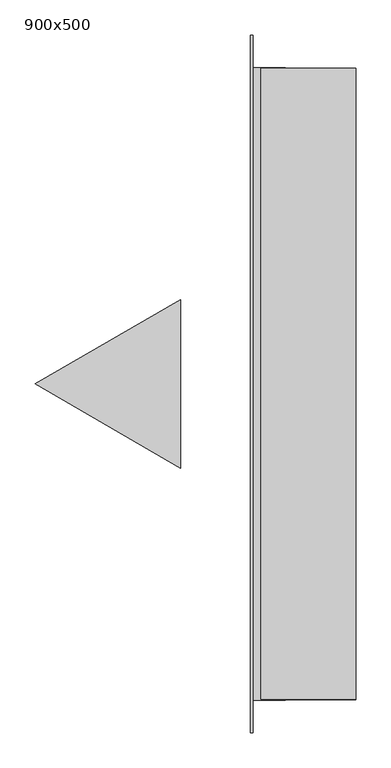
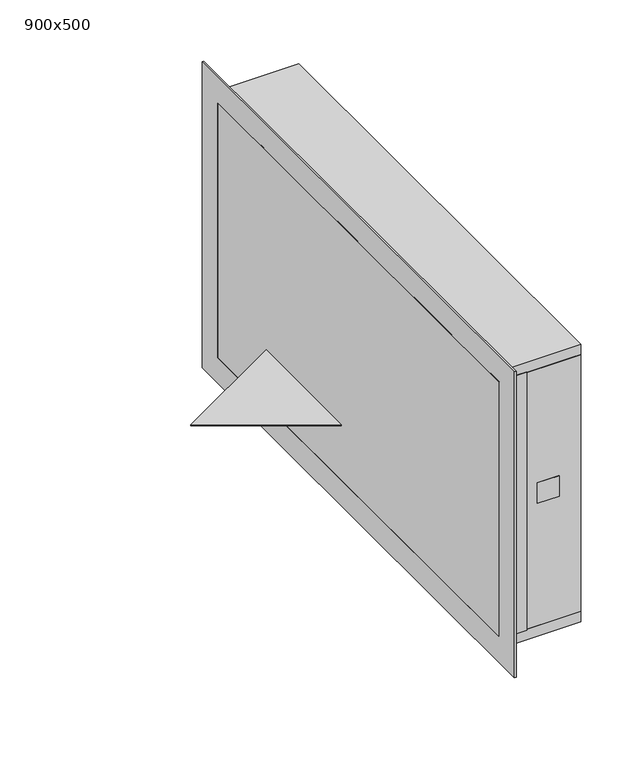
"""IFC4 building model written with IfcOpenShell, lengths in millimetres: air terminal geometry, Клапан ОЗК прямоугольный стеновой НЗ : 900x500."""

import ifcopenshell
import ifcopenshell.guid

model = None  # the IFC model being written
_history = None  # IfcOwnerHistory: only IFC2X3 demands one
_inside = {}  # id of a spatial element -> (the spatial element, [elements in it])
_under = {}  # id of a project, library or spatial element -> (it, [spatial elements below it])
_declared = {}  # id of a project -> (the project, [libraries it declares])
_typed = {}  # id of a type object -> (the type object, [elements of that type])
_made_of = {}  # id of a material, layer set ... -> (it, [elements and type objects made of it])


def new_model(schema):
    """Start an empty IFC model of exactly this schema.

    Asked for "IFC4X3", IfcOpenShell would pick the latest addendum, in which some entities
    have other attributes; the version numbers below select the first issue.
    IFC2X3 requires an IfcOwnerHistory on every rooted entity: one is made here for all.
    """
    global model, _history
    if schema == "IFC4X3":
        model = ifcopenshell.file(schema_version=(4, 3, 0, 0))
    else:
        model = ifcopenshell.file(schema=schema)
    _inside.clear()
    _under.clear()
    _declared.clear()
    _typed.clear()
    _made_of.clear()
    _history = None
    if model.schema == "IFC2X3":
        org = make("IfcOrganization", Name="unknown")
        user = make(
            "IfcPersonAndOrganization",
            ThePerson=make("IfcPerson", FamilyName="unknown"),
            TheOrganization=org,
        )
        app = make(
            "IfcApplication",
            ApplicationDeveloper=org,
            Version="unknown",
            ApplicationFullName="unknown",
            ApplicationIdentifier="unknown",
        )
        _history = make(
            "IfcOwnerHistory",
            OwningUser=user,
            OwningApplication=app,
            ChangeAction="ADDED",
            CreationDate=0,
        )
    return model


def make(cls, **values):
    """One entity of the class cls with the attributes given. An attribute that is None is left unset."""
    return model.create_entity(
        cls, **{name: value for name, value in values.items() if value is not None}
    )


def rooted(cls, **values):
    """An entity with a GlobalId (a new one), such as an element, a storey or a relation."""
    return make(cls, GlobalId=ifcopenshell.guid.new(), OwnerHistory=_history, **values)


def si_unit(unit_type, name, prefix=None):
    """IfcSIUnit, for example si_unit("LENGTHUNIT", "METRE", prefix="MILLI")."""
    return make("IfcSIUnit", UnitType=unit_type, Prefix=prefix, Name=name)


def assignment(units):
    """IfcUnitAssignment: the units of a project."""
    return None if units is None else make("IfcUnitAssignment", Units=units)


def point(xyz):
    """IfcCartesianPoint."""
    return None if xyz is None else make("IfcCartesianPoint", Coordinates=xyz)


def direction(xyz):
    """IfcDirection."""
    return None if xyz is None else make("IfcDirection", DirectionRatios=xyz)


def frame(location, z_axis=None, x_axis=None):
    """IfcAxis2Placement3D, a coordinate frame: its origin and axes. An axis left out is left unset."""
    return make(
        "IfcAxis2Placement3D",
        Location=point(location),
        Axis=direction(z_axis),
        RefDirection=direction(x_axis),
    )


def frame_2d(location, x_axis=None):
    """IfcAxis2Placement2D, a coordinate frame in the plane: its origin and x axis."""
    return make(
        "IfcAxis2Placement2D", Location=point(location), RefDirection=direction(x_axis)
    )


def origin():
    """The frame at (0, 0, 0) with its axes left unset."""
    return frame((0.0, 0.0, 0.0))


def place(relative_to, where):
    """IfcLocalPlacement: puts the frame where relative to a parent placement (None: the world)."""
    return make(
        "IfcLocalPlacement", PlacementRelTo=relative_to, RelativePlacement=where
    )


def context(
    kind, dimensions, precision=None, world=None, true_north=None, identifier=None
):
    """IfcGeometricRepresentationContext, for example the 3D "Model" context."""
    return make(
        "IfcGeometricRepresentationContext",
        ContextIdentifier=identifier,
        ContextType=kind,
        CoordinateSpaceDimension=dimensions,
        Precision=precision,
        WorldCoordinateSystem=world,
        TrueNorth=true_north,
    )


def project(units=None, contexts=None):
    """IfcProject with its units and contexts."""
    return rooted(
        "IfcProject",
        Name="project",
        RepresentationContexts=contexts,
        UnitsInContext=assignment(units),
    )


def spatial(cls, under=None, at=None, **own):
    """A site, building, storey or space (cls), placed at a placement, below another one or the project."""
    s = rooted(cls, ObjectPlacement=at, **own)
    if under is not None:
        _under.setdefault(under.id(), (under, []))[1].append(s)
    return s


def polyline(points):
    """IfcPolyline through the points."""
    return make("IfcPolyline", Points=[point(p) for p in points])


def circle_curve(where, radius):
    """IfcCircle in the frame where."""
    return make("IfcCircle", Position=where, Radius=radius)


def trimmed(basis, trim1, trim2, sense, master):
    """IfcTrimmedCurve: the piece of a basis curve between two trims."""
    return make(
        "IfcTrimmedCurve",
        BasisCurve=basis,
        Trim1=trim1,
        Trim2=trim2,
        SenseAgreement=sense,
        MasterRepresentation=master,
    )


def segment(curve, same_sense, transition):
    """IfcCompositeCurveSegment."""
    return make(
        "IfcCompositeCurveSegment",
        Transition=transition,
        SameSense=same_sense,
        ParentCurve=curve,
    )


def composite_curve(segments, self_intersect=None):
    """IfcCompositeCurve: segments joined end to end."""
    return make("IfcCompositeCurve", Segments=segments, SelfIntersect=self_intersect)


def outline(outer, holes=None, kind="AREA"):
    """IfcArbitraryClosedProfileDef: a profile drawn as a closed curve; with holes, ...WithVoids."""
    if holes is None:
        return make("IfcArbitraryClosedProfileDef", ProfileType=kind, OuterCurve=outer)
    return make(
        "IfcArbitraryProfileDefWithVoids",
        ProfileType=kind,
        OuterCurve=outer,
        InnerCurves=holes,
    )


def extrude(swept, where, along, depth):
    """IfcExtrudedAreaSolid: the profile swept, set in the frame where, extruded along a direction by depth."""
    return make(
        "IfcExtrudedAreaSolid",
        SweptArea=swept,
        Position=where,
        ExtrudedDirection=direction(along),
        Depth=depth,
    )


def faces_of(points, faces, orient=None, outer=None):
    """IfcFace entities. A face is a list of loops; a loop is a list of indices into points, from 0.

    orient and outer hold one flag for each loop. By default every Orientation is true, the
    first loop of a face is its IfcFaceOuterBound and the others are IfcFaceBound.
    """
    made = []
    for i, loops in enumerate(faces):
        bounds = []
        for j, loop in enumerate(loops):
            is_outer = j == 0 if outer is None else outer[i][j]
            bounds.append(
                make(
                    "IfcFaceOuterBound" if is_outer else "IfcFaceBound",
                    Bound=make("IfcPolyLoop", Polygon=[points[k] for k in loop]),
                    Orientation=True if orient is None else orient[i][j],
                )
            )
        made.append(make("IfcFace", Bounds=bounds))
    return made


def faceted_brep(points, faces, orient=None, outer=None, voids=None):
    """IfcFacetedBrep: a solid bounded by flat faces; with voids (closed shells), ...WithVoids."""
    shared = [point(p) for p in points]
    hull = make("IfcClosedShell", CfsFaces=faces_of(shared, faces, orient, outer))
    if voids is None:
        return make("IfcFacetedBrep", Outer=hull)
    return make(
        "IfcFacetedBrepWithVoids",
        Outer=hull,
        Voids=[
            make(cls, CfsFaces=faces_of(shared, fs, o, b)) for cls, fs, o, b in voids
        ],
    )


def shape(context_of_items, identifier, shape_type, items):
    """IfcShapeRepresentation: the items that make up one representation, for example the "Body"."""
    return make(
        "IfcShapeRepresentation",
        ContextOfItems=context_of_items,
        RepresentationIdentifier=identifier,
        RepresentationType=shape_type,
        Items=items,
    )


def source(mapping_origin, context_of_items, identifier, shape_type, items):
    """IfcRepresentationMap: a shape defined once, which mapped items show again and again."""
    return make(
        "IfcRepresentationMap",
        MappingOrigin=mapping_origin,
        MappedRepresentation=shape(context_of_items, identifier, shape_type, items),
    )


def transform(
    local_origin,
    x_axis=None,
    y_axis=None,
    z_axis=None,
    scale=None,
    scale2=None,
    scale3=None,
    uniform=True,
):
    """IfcCartesianTransformationOperator3D, or its non-uniform kind. x_axis, y_axis, z_axis: its Axis1, 2, 3."""
    if uniform:
        return make(
            "IfcCartesianTransformationOperator3D",
            Axis1=direction(x_axis),
            Axis2=direction(y_axis),
            LocalOrigin=point(local_origin),
            Scale=scale,
            Axis3=direction(z_axis),
        )
    return make(
        "IfcCartesianTransformationOperator3DnonUniform",
        Axis1=direction(x_axis),
        Axis2=direction(y_axis),
        LocalOrigin=point(local_origin),
        Scale=scale,
        Axis3=direction(z_axis),
        Scale2=scale2,
        Scale3=scale3,
    )


def mapped(mapping_source, mapping_target):
    """IfcMappedItem: shows the shape of a source again, moved by a transform."""
    return make(
        "IfcMappedItem", MappingSource=mapping_source, MappingTarget=mapping_target
    )


def made_of(thing, what):
    """Note that an element or type object is made of a material, layer set ...; save() writes the relation."""
    if what is not None:
        _made_of.setdefault(what.id(), (what, []))[1].append(thing)
    return thing


def element(
    cls,
    number,
    at=None,
    inside=None,
    cuts=None,
    type_object=None,
    material=None,
    context=None,
    identifier="Body",
    shape_type=None,
    held_by="IfcProductDefinitionShape",
    body=None,
    shapes=None,
    **own,
):
    """One element of the class cls, such as IfcWall. Its Tag is "e" and its number.

    at: its placement. inside: the storey or other place that contains it. cuts: it is an
    opening in that element (IfcRelVoidsElement). A single representation is given by context,
    identifier, shape_type and body (its items); several are given by shapes. held_by: the class
    of the entity that holds the representations. save() writes the other relations.
    """
    e = rooted(cls, Tag="e%d" % number, ObjectPlacement=at, **own)
    if body is not None:
        shapes = [shape(context, identifier, shape_type, body)]
    if shapes is not None:
        e.Representation = make(held_by, Representations=shapes)
    if inside is not None:
        _inside.setdefault(inside.id(), (inside, []))[1].append(e)
    if cuts is not None:
        rooted(
            "IfcRelVoidsElement", RelatingBuildingElement=cuts, RelatedOpeningElement=e
        )
    if type_object is not None:
        _typed.setdefault(type_object.id(), (type_object, []))[1].append(e)
    return made_of(e, material)


def aggregate(whole, parts):
    """IfcRelAggregates: a whole, such as a stair, and the parts it consists of."""
    return rooted("IfcRelAggregates", RelatingObject=whole, RelatedObjects=parts)


def save(model, path):
    """Write the relations noted so far, then the file.

    IfcRelAggregates (storeys below a building ...), IfcRelContainedInSpatialStructure (elements
    in a storey), IfcRelDefinesByType, IfcRelAssociatesMaterial and IfcRelDeclares: one each for
    every whole, place, type object, material and project.
    """
    for whole, parts in _under.values():
        aggregate(whole, parts)
    for where, things in _inside.values():
        rooted(
            "IfcRelContainedInSpatialStructure",
            RelatedElements=things,
            RelatingStructure=where,
        )
    for kind, things in _typed.values():
        rooted("IfcRelDefinesByType", RelatedObjects=things, RelatingType=kind)
    for what, things in _made_of.values():
        rooted("IfcRelAssociatesMaterial", RelatedObjects=things, RelatingMaterial=what)
    for by, libraries in _declared.values():
        rooted("IfcRelDeclares", RelatingContext=by, RelatedDefinitions=libraries)
    model.write(path)


def air_terminal_900x500_1436044a(model_context):
    return source(origin(), model_context, "Body", "SolidModel", [
        extrude(outline(polyline([(-175.0, 120.0), (-175.0, 0.0), (-175.0, -120.0), (-382.8460969, 0.0), (-175.0, 120.0)])), frame((0.0, 0.0, -1.0), z_axis=(0.0, 0.0, 1.0), x_axis=(1.0, 0.0, 0.0)), (0.0, 0.0, 1.0), 2.0),
        extrude(outline(composite_curve([segment(trimmed(circle_curve(frame_2d((8.3674271, 15.0)), 6.0), [point((8.3674271, 9.0))], [point((8.3674271, 21.0))], False, "CARTESIAN"), True, "CONTINUOUS"), segment(trimmed(circle_curve(frame_2d((8.3674271, 15.0)), 6.0), [point((8.3674271, 21.0))], [point((8.3674271, 9.0))], False, "CARTESIAN"), True, "CONTINUOUS")], self_intersect=False)), frame((0.0, -355.0, 0.0), z_axis=(0.0, 1.0, 0.0), x_axis=(0.0, 0.0, 1.0)), (0.0, 0.0, 1.0), 100.0),
        extrude(outline(polyline([(34.330127, -390.5354596), (34.330127, -395.5354596), (30.0, -398.0354596), (25.669873, -395.5354596), (25.669873, -390.5354596), (30.0, -388.0354596), (34.330127, -390.5354596)])), frame((0.0, 0.0, -160.0), z_axis=(0.0, 0.0, 1.0), x_axis=(1.0, 0.0, 0.0)), (0.0, 0.0, 1.0), 20.0),
        extrude(outline(polyline([(-4.330127, -390.5354596), (0.0, -388.0354596), (4.330127, -390.5354596), (4.330127, -395.5354596), (0.0, -398.0354596), (-4.330127, -395.5354596), (-4.330127, -390.5354596)])), frame((0.0, 0.0, -160.0), z_axis=(0.0, 0.0, 1.0), x_axis=(1.0, 0.0, 0.0)), (0.0, 0.0, 1.0), 20.0),
        extrude(outline(polyline([(35.0, -450.0), (-5.0, -450.0), (-5.0, -430.0), (35.0, -430.0), (35.0, -450.0)])), frame((0.0, 0.0, -11.6325729), z_axis=(0.0, 0.0, 1.0), x_axis=(1.0, 0.0, 0.0)), (0.0, 0.0, 1.0), 40.0),
        extrude(outline(composite_curve([segment(polyline([(40.0, 40.0), (40.0, -10.0)]), True, "CONTINUOUS"), segment(trimmed(circle_curve(frame_2d((25.0, -10.0)), 15.0), [point((40.0, -10.0))], [point((25.0, -25.0))], False, "CARTESIAN"), True, "CONTINUOUS"), segment(polyline([(25.0, -25.0), (-125.0, -25.0)]), True, "CONTINUOUS"), segment(trimmed(circle_curve(frame_2d((-125.0, -10.0)), 15.0), [point((-125.0, -25.0))], [point((-140.0, -10.0))], False, "CARTESIAN"), True, "CONTINUOUS"), segment(polyline([(-140.0, -10.0), (-140.0, 40.0)]), True, "CONTINUOUS"), segment(trimmed(circle_curve(frame_2d((-125.0, 40.0)), 15.0), [point((-140.0, 40.0))], [point((-125.0, 55.0))], False, "CARTESIAN"), True, "CONTINUOUS"), segment(polyline([(-125.0, 55.0), (25.0, 55.0)]), True, "CONTINUOUS"), segment(trimmed(circle_curve(frame_2d((25.0, 40.0)), 15.0), [point((25.0, 55.0))], [point((40.0, 40.0))], False, "CARTESIAN"), True, "CONTINUOUS")], self_intersect=False)), frame((0.0, -430.0, 0.0), z_axis=(0.0, 1.0, 0.0), x_axis=(0.0, 0.0, 1.0)), (0.0, 0.0, 1.0), 75.0),
        faceted_brep([(-75.0, -447.6138858, 247.6138858), (-25.0, -447.6138858, 247.6138858), (-25.0, -447.6138858, -247.6138858), (-75.0, -447.6138858, -247.6138858), (-71.5502892, -497.6138858, 297.6138858), (-75.0, -497.6138858, 297.6138858), (-75.0, -497.6138858, -297.6138858), (-71.5502892, -497.6138858, -297.6138858), (-25.0, -451.0635966, 251.0635966), (-71.5502892, -451.0635966, 251.0635966), (-71.5502892, -451.0635966, -251.0635966), (-25.0, -451.0635966, -251.0635966), (-25.0, 447.6138858, -247.6138858), (-75.0, 447.6138858, -247.6138858), (-75.0, 497.6138858, -297.6138858), (-71.5502892, 497.6138858, -297.6138858), (-71.5502892, 451.0635966, -251.0635966), (-25.0, 451.0635966, -251.0635966), (-25.0, 447.6138858, 247.6138858), (-75.0, 447.6138858, 247.6138858), (-75.0, 497.6138858, 297.6138858), (-71.5502892, 497.6138858, 297.6138858), (-71.5502892, 451.0635966, 251.0635966), (-25.0, 451.0635966, 251.0635966)], [[[0, 1, 2, 3]], [[4, 5, 6, 7]], [[8, 9, 10, 11]], [[3, 2, 12, 13]], [[7, 6, 14, 15]], [[11, 10, 16, 17]], [[13, 12, 18, 19]], [[15, 14, 20, 21]], [[17, 16, 22, 23]], [[19, 18, 1, 0]], [[5, 20, 14, 6], [3, 13, 19, 0]], [[21, 20, 5, 4]], [[7, 15, 21, 4], [9, 22, 16, 10]], [[23, 22, 9, 8]], [[11, 17, 23, 8], [1, 18, 12, 2]]]),
        extrude(outline(polyline([(75.0, 450.0), (75.0, -450.0), (-75.0, -450.0), (-75.0, 450.0), (75.0, 450.0)])), frame((0.0, 0.0, -250.0), z_axis=(0.0, 0.0, 1.0), x_axis=(1.0, 0.0, 0.0)), (0.0, 0.0, 1.0), 500.0),
        extrude(outline(polyline([(-60.0, -450.0), (-60.0, 450.0), (75.0, 450.0), (75.0, -450.0), (-60.0, -450.0)])), frame((0.0, 0.0, -270.0), z_axis=(0.0, 0.0, 1.0), x_axis=(1.0, 0.0, 0.0)), (0.0, 0.0, 1.0), 20.0),
        extrude(outline(polyline([(-60.0, -450.0), (-60.0, 450.0), (75.0, 450.0), (75.0, -450.0), (-60.0, -450.0)])), frame((0.0, 0.0, 250.0), z_axis=(0.0, 0.0, 1.0), x_axis=(1.0, 0.0, 0.0)), (0.0, 0.0, 1.0), 20.0),
    ])


if __name__ == "__main__":
    model = new_model("IFC4")
    model_context = context("Model", 3, world=origin())
    ifc_project = project(units=[si_unit("LENGTHUNIT", "METRE", prefix="MILLI")], contexts=[model_context])
    site = spatial("IfcSite", under=ifc_project)
    building = spatial("IfcBuilding", under=site)
    placement = place(None, origin())
    air_terminal_900x500_shape = air_terminal_900x500_1436044a(model_context)
    element("IfcAirTerminal", 1, ObjectType="Клапан ОЗК прямоугольный стеновой НЗ : 900x500", at=placement, inside=building, context=model_context, shape_type="MappedRepresentation", body=[
        mapped(air_terminal_900x500_shape, transform((0.0, 0.0, 0.0), x_axis=(1.0, 0.0, 0.0), y_axis=(0.0, 1.0, 0.0), z_axis=(0.0, 0.0, 1.0))),
    ])
    save(model, "model.ifc")
